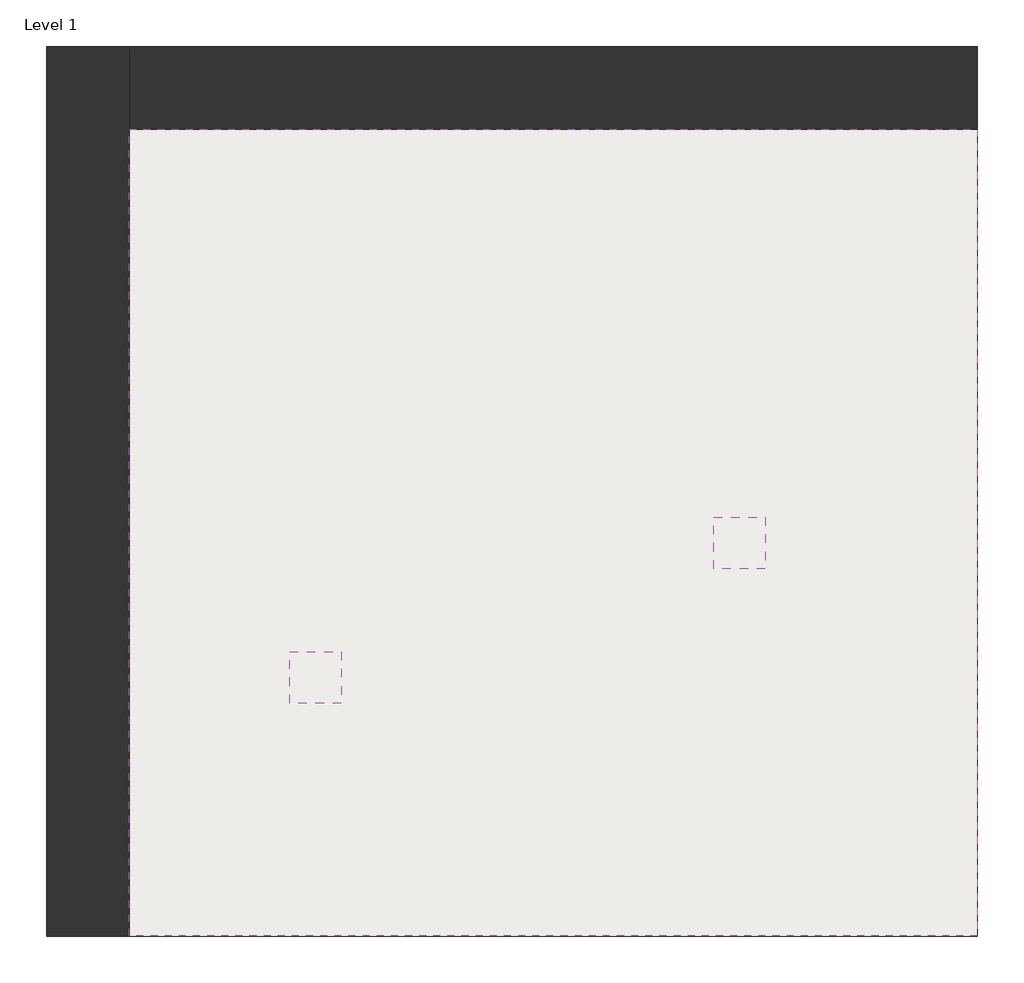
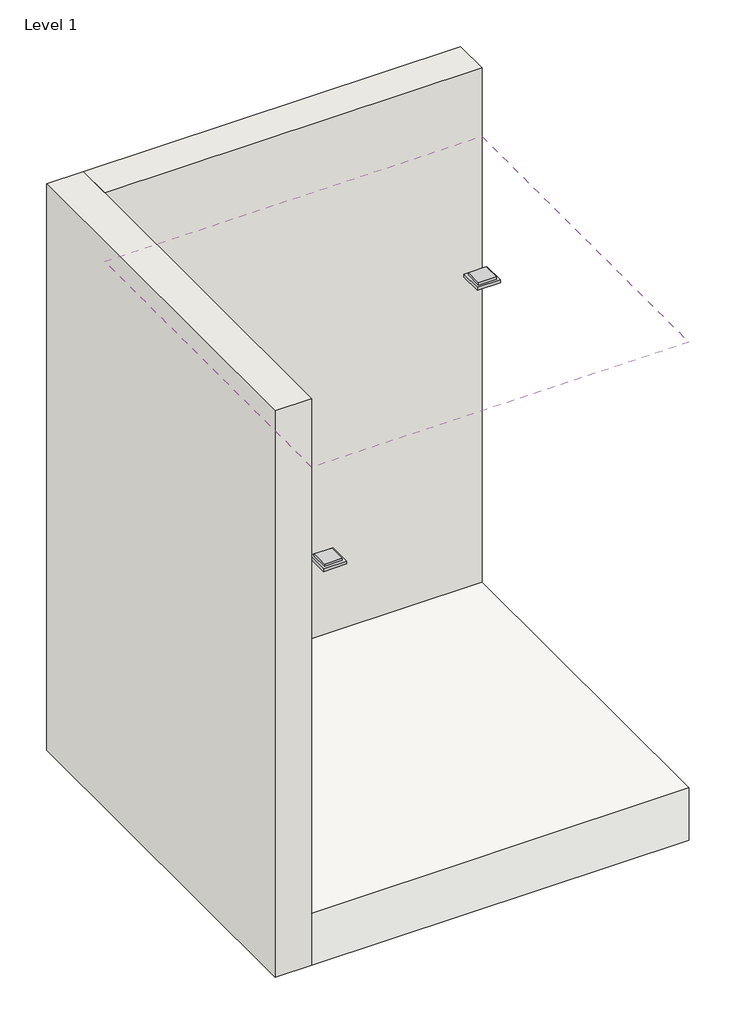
# One storey: 2 light fixtures, 2 walls, 1 covering, 1 slab.
"""IFC4 building model written with IfcOpenShell, lengths in millimetres."""

from ifc_helpers import new_model, si_unit, frame, origin, place, context, project, spatial, polyline, outline, extrude, faceted_brep, transform, mapped, element, save
from components import light_fixture_2619068b

model = new_model("IFC4")

# Units and contexts
model_context = context("Model", 3, world=origin())
ifc_project = project(units=[si_unit("LENGTHUNIT", "METRE", prefix="MILLI")], contexts=[model_context])

# Site, building, storey
site = spatial("IfcSite", under=ifc_project)
building = spatial("IfcBuilding", under=site)
storey = spatial("IfcBuildingStorey", under=building, Name="Level 1", Elevation=0.0)

# Covering
placement = place(None, origin())
element("IfcCovering", 1, ObjectType="Ceiling 2", at=placement, inside=storey, context=model_context, shape_type="SweptSolid", body=[
    extrude(outline(polyline([(4291.0676417, 3741.7404022), (4291.0676417, 1760.5404022), (2208.2676417, 1760.5404022), (2208.2676417, 3741.7404022), (4291.0676417, 3741.7404022)])), frame((0.0, 0.0, 2600.0), z_axis=(0.0, 0.0, 1.0), x_axis=(1.0, 0.0, 0.0)), (0.0, 0.0, 1.0), 25.4),
])

# Light fixtures
light_fixture_shape = light_fixture_2619068b(model_context)
element("IfcLightFixture", 2, ObjectType="LCMPD5Q_SURFACE MOUNT BASIC : LCMPD5QW-T30", at=placement, inside=storey, context=model_context, shape_type="MappedRepresentation", body=[
    mapped(light_fixture_shape, transform((3706.8676417, 2759.5396904, 2600.0), x_axis=(1.0, 0.0, 0.0), y_axis=(0.0, 1.0, 0.0), z_axis=(0.0, 0.0, 1.0))),
])
element("IfcLightFixture", 3, ObjectType="LCMPD5Q_SURFACE MOUNT BASIC : LCMPD5QW-T30", at=placement, inside=storey, context=model_context, shape_type="MappedRepresentation", body=[
    mapped(light_fixture_shape, transform((2665.4676417, 2429.3396904, 1524.0), x_axis=(1.0, 0.0, 0.0), y_axis=(0.0, 1.0, 0.0), z_axis=(0.0, 0.0, 1.0))),
])

# Slab
element("IfcSlab", 4, ObjectType="Floor 1", at=placement, inside=storey, context=model_context, shape_type="SweptSolid", body=[
    extrude(outline(polyline([(4291.0676417, 3741.7404022), (4291.0676417, 1760.5404022), (2208.2676417, 1760.5404022), (2208.2676417, 3741.7404022), (4291.0676417, 3741.7404022)])), frame((0.0, 0.0, -304.8), z_axis=(0.0, 0.0, 1.0), x_axis=(1.0, 0.0, 0.0)), (0.0, 0.0, 1.0), 304.8),
])

# Walls
element("IfcWall", 5, ObjectType="Wall 1", at=placement, inside=storey, context=model_context, shape_type="Brep", body=[
    faceted_brep([(2005.0676417, 3944.9404022, -304.8), (2005.0676417, 1760.5404022, -304.8), (2005.0676417, 1760.5404022, 3000.0), (2005.0676417, 3944.9404022, 3000.0), (2208.2676417, 3944.9404022, -304.8), (2208.2676417, 3944.9404022, 3000.0), (2208.2676417, 3741.7404022, 3000.0), (2208.2676417, 1760.5404022, 3000.0), (2208.2676417, 1760.5404022, -304.8), (2208.2676417, 3741.7404022, -304.8)], [[[0, 1, 2, 3]], [[4, 5, 6, 7, 8, 9]], [[1, 0, 4, 9, 8]], [[2, 1, 8, 7]], [[3, 2, 7, 6, 5]], [[0, 3, 5, 4]]]),
])
element("IfcWall", 6, ObjectType="Wall 1", at=placement, inside=storey, context=model_context, shape_type="SweptSolid", body=[
    extrude(outline(polyline([(4291.0676417, 3741.7404022), (2208.2676417, 3741.7404022), (2208.2676417, 3944.9404022), (4291.0676417, 3944.9404022), (4291.0676417, 3741.7404022)])), frame((0.0, 0.0, -304.8), z_axis=(0.0, 0.0, 1.0), x_axis=(1.0, 0.0, 0.0)), (0.0, 0.0, 1.0), 3304.8),
])

save(model, "model.ifc")
